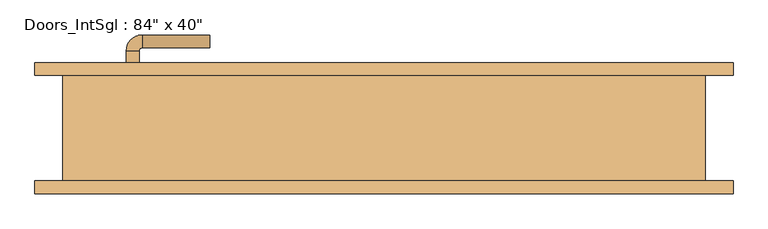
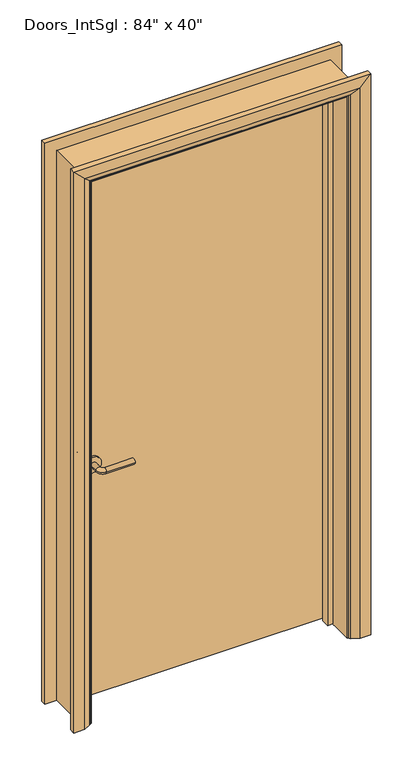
"""IFC4 building model written with IfcOpenShell, lengths in millimetres: door geometry."""

from ifc_helpers import new_model, si_unit, point, frame, frame_2d, origin, place, context, project, spatial, polyline, circle_curve, ellipse_curve, trimmed, segment, composite_curve, outline, extrude, faceted_brep, source, transform, mapped, element, save
from ifc_brep_helpers import plane_surface, cylinder_surface, revolved_surface, advanced_brep


def door_63cfe3d1(model_context):
    return source(origin(), model_context, "Body", "SolidModel", [
        advanced_brep(
        [(-401.0, 36.0, 900.0), (-381.0, 36.0, 900.0), (-381.0, 6.0, 900.0), (-401.0, 6.0, 900.0), (-376.0, 1.0, 900.0), (-376.0, -19.0, 900.0), (-271.0, -19.0, 900.0), (-271.0, 1.0, 900.0)],
        [
            (0, 1, circle_curve(frame((-391.0, 36.0, 900.0), z_axis=(0.0, 1.0, 0.0), x_axis=(1.0, 0.0, 0.0)), 10.0)),
            (1, 0, circle_curve(frame((-391.0, 36.0, 900.0), z_axis=(0.0, 1.0, 0.0), x_axis=(1.0, 0.0, 0.0)), 10.0)),
            (1, 2),
            (2, 3, circle_curve(frame((-391.0, 6.0, 900.0), z_axis=(0.0, 1.0, 0.0), x_axis=(1.0, 0.0, 0.0)), 10.0)),
            (3, 0),
            (3, 2, circle_curve(frame((-391.0, 6.0, 900.0), z_axis=(0.0, 1.0, 0.0), x_axis=(1.0, 0.0, 0.0)), 10.0)),
            (4, 5, circle_curve(frame((-376.0, -9.0, 900.0), z_axis=(-1.0, 0.0, 0.0), x_axis=(0.0, 1.0, 0.0)), 10.0)),
            (5, 3, circle_curve(frame((-376.0, 6.0, 900.0), z_axis=(0.0, 0.0, -1.0), x_axis=(-1.0, 0.0, 0.0)), 25.0)),
            (2, 4, circle_curve(frame((-376.0, 6.0, 900.0), z_axis=(0.0, 0.0, 1.0), x_axis=(-1.0, 0.0, 0.0)), 5.0)),
            (5, 4, circle_curve(frame((-376.0, -9.0, 900.0), z_axis=(-1.0, 0.0, 0.0), x_axis=(0.0, 1.0, 0.0)), 10.0)),
            (6, 7, circle_curve(frame((-271.0, -9.0, 900.0), z_axis=(1.0, 0.0, 0.0), x_axis=(0.0, 1.0, 0.0)), 10.0)),
            (7, 6, circle_curve(frame((-271.0, -9.0, 900.0), z_axis=(1.0, 0.0, 0.0), x_axis=(0.0, 1.0, 0.0)), 10.0)),
            (4, 7),
            (6, 5),
        ],
        [
            plane_surface(frame((-391.0, 36.0, 900.0), z_axis=(0.0, 1.0, 0.0), x_axis=(0.0, 0.0, 1.0))),
            cylinder_surface(frame((-391.0, 36.0, 900.0), z_axis=(0.0, 1.0, 0.0), x_axis=(1.0, 0.0, 0.0)), 10.0),
            revolved_surface(trimmed(ellipse_curve(frame((-391.0, 6.0, 900.0), z_axis=(0.0, -1.0, 0.0), x_axis=(1.0, 0.0, 0.0)), 10.0, 10.0), [point((-401.0, 6.0, 900.0))], [point((-381.0, 6.0, 900.0))], True, "CARTESIAN"), (-376.0, 6.0, 900.0), (0.0, 0.0, -1.0)),
            revolved_surface(trimmed(ellipse_curve(frame((-391.0, 6.0, 900.0), z_axis=(0.0, -1.0, 0.0), x_axis=(1.0, 0.0, 0.0)), 10.0, 10.0), [point((-381.0, 6.0, 900.0))], [point((-401.0, 6.0, 900.0))], True, "CARTESIAN"), (-376.0, 6.0, 900.0), (0.0, 0.0, -1.0)),
            plane_surface(frame((-271.0, -9.0, 900.0), z_axis=(1.0, 0.0, 0.0), x_axis=(0.0, 0.0, 1.0))),
            cylinder_surface(frame((-376.0, -9.0, 900.0), z_axis=(-1.0, 0.0, 0.0), x_axis=(0.0, 1.0, 0.0)), 10.0),
        ],
        [
            (0, [[1, 2]]),
            (1, [[3, 4, 5, -2]]),
            (1, [[-5, 6, -3, -1]]),
            (2, [[7, 8, -4, 9]]),
            (3, [[10, -9, -6, -8]]),
            (4, [[11, 12]]),
            (5, [[13, -11, 14, -7]]),
            (5, [[-14, -12, -13, -10]]),
        ],
    ),
        extrude(outline(composite_curve([segment(trimmed(circle_curve(frame_2d((900.0, -393.5)), 30.0), [point((900.0, -423.5))], [point((900.0, -363.5))], False, "CARTESIAN"), True, "CONTINUOUS"), segment(trimmed(circle_curve(frame_2d((900.0, -393.5)), 30.0), [point((900.0, -363.5))], [point((900.0, -423.5))], False, "CARTESIAN"), True, "CONTINUOUS")], self_intersect=False)), frame((0.0, 36.0, 0.0), z_axis=(0.0, 1.0, 0.0), x_axis=(0.0, 0.0, 1.0)), (0.0, 0.0, 1.0), 8.0),
        advanced_brep(
        [(-401.0, 90.0, 900.0), (-381.0, 90.0, 900.0), (-401.0, 120.0, 900.0), (-381.0, 120.0, 900.0), (-376.0, 125.0, 900.0), (-376.0, 145.0, 900.0), (-271.0, 145.0, 900.0), (-271.0, 125.0, 900.0)],
        [
            (0, 1, circle_curve(frame((-391.0, 90.0, 900.0), z_axis=(0.0, -1.0, 0.0), x_axis=(1.0, 0.0, 0.0)), 10.0)),
            (1, 0, circle_curve(frame((-391.0, 90.0, 900.0), z_axis=(0.0, -1.0, 0.0), x_axis=(1.0, 0.0, 0.0)), 10.0)),
            (0, 2),
            (2, 3, circle_curve(frame((-391.0, 120.0, 900.0), z_axis=(0.0, -1.0, 0.0), x_axis=(1.0, 0.0, 0.0)), 10.0)),
            (3, 1),
            (3, 2, circle_curve(frame((-391.0, 120.0, 900.0), z_axis=(0.0, -1.0, 0.0), x_axis=(1.0, 0.0, 0.0)), 10.0)),
            (4, 3, circle_curve(frame((-376.0, 120.0, 900.0), z_axis=(0.0, 0.0, 1.0), x_axis=(-1.0, 0.0, 0.0)), 5.0)),
            (2, 5, circle_curve(frame((-376.0, 120.0, 900.0), z_axis=(0.0, 0.0, -1.0), x_axis=(-1.0, 0.0, 0.0)), 25.0)),
            (5, 4, circle_curve(frame((-376.0, 135.0, 900.0), z_axis=(-1.0, 0.0, 0.0), x_axis=(0.0, -1.0, 0.0)), 10.0)),
            (4, 5, circle_curve(frame((-376.0, 135.0, 900.0), z_axis=(-1.0, 0.0, 0.0), x_axis=(0.0, -1.0, 0.0)), 10.0)),
            (6, 7, circle_curve(frame((-271.0, 135.0, 900.0), z_axis=(1.0, 0.0, 0.0), x_axis=(0.0, -1.0, 0.0)), 10.0)),
            (7, 6, circle_curve(frame((-271.0, 135.0, 900.0), z_axis=(1.0, 0.0, 0.0), x_axis=(0.0, -1.0, 0.0)), 10.0)),
            (5, 6),
            (7, 4),
        ],
        [
            plane_surface(frame((-391.0, 90.0, 900.0), z_axis=(0.0, -1.0, 0.0), x_axis=(0.0, 0.0, 1.0))),
            cylinder_surface(frame((-391.0, 90.0, 900.0), z_axis=(0.0, -1.0, 0.0), x_axis=(1.0, 0.0, 0.0)), 10.0),
            revolved_surface(trimmed(ellipse_curve(frame((-391.0, 120.0, 900.0), z_axis=(0.0, -1.0, 0.0), x_axis=(1.0, 0.0, 0.0)), 10.0, 10.0), [point((-401.0, 120.0, 900.0))], [point((-381.0, 120.0, 900.0))], True, "CARTESIAN"), (-376.0, 120.0, 900.0), (0.0, 0.0, -1.0)),
            revolved_surface(trimmed(ellipse_curve(frame((-391.0, 120.0, 900.0), z_axis=(0.0, -1.0, 0.0), x_axis=(1.0, 0.0, 0.0)), 10.0, 10.0), [point((-381.0, 120.0, 900.0))], [point((-401.0, 120.0, 900.0))], True, "CARTESIAN"), (-376.0, 120.0, 900.0), (0.0, 0.0, -1.0)),
            plane_surface(frame((-271.0, 135.0, 900.0), z_axis=(1.0, 0.0, 0.0), x_axis=(0.0, 0.0, 1.0))),
            cylinder_surface(frame((-376.0, 135.0, 900.0), z_axis=(-1.0, 0.0, 0.0), x_axis=(0.0, -1.0, 0.0)), 10.0),
        ],
        [
            (0, [[1, 2]]),
            (1, [[-1, 3, 4, 5]]),
            (1, [[-2, -5, 6, -3]]),
            (2, [[7, -4, 8, 9]]),
            (3, [[-8, -6, -7, 10]]),
            (4, [[11, 12]]),
            (5, [[-9, 13, -12, 14]]),
            (5, [[-10, -14, -11, -13]]),
        ],
    ),
        extrude(outline(composite_curve([segment(trimmed(circle_curve(frame_2d((900.0, -393.5)), 30.0), [point((900.0, -423.5))], [point((900.0, -363.5))], False, "CARTESIAN"), True, "CONTINUOUS"), segment(trimmed(circle_curve(frame_2d((900.0, -393.5)), 30.0), [point((900.0, -363.5))], [point((900.0, -423.5))], False, "CARTESIAN"), True, "CONTINUOUS")], self_intersect=False)), frame((0.0, 82.0, 0.0), z_axis=(0.0, 1.0, 0.0), x_axis=(0.0, 0.0, 1.0)), (0.0, 0.0, 1.0), 8.0),
        extrude(outline(polyline([(466.0, 44.0), (-466.0, 44.0), (-466.0, 82.0), (466.0, 82.0), (466.0, 44.0)])), frame((0.0, 0.0, 8.0), z_axis=(0.0, 0.0, 1.0), x_axis=(1.0, 0.0, 0.0)), (0.0, 0.0, 1.0), 2083.6),
        advanced_brep(
        [(543.0, 102.0, 0.0), (543.0, 82.0, 0.0), (473.0, 82.0, 0.0), (477.0, 88.0, 0.0), (503.0, 102.0, 0.0), (543.0, 102.0, 2168.6), (543.0, 82.0, 2168.6), (-543.0, 82.0, 2168.6), (-543.0, 82.0, 0.0), (-473.0, 82.0, 0.0), (-473.0, 82.0, 2098.6), (473.0, 82.0, 2098.6), (477.0, 88.0, 2102.6), (503.0, 102.0, 2128.6), (-503.0, 102.0, 2128.6), (-503.0, 102.0, 0.0), (-543.0, 102.0, 0.0), (-543.0, 102.0, 2168.6), (-477.0, 88.0, 0.0), (-477.0, 88.0, 2102.6)],
        [
            (0, 1),
            (1, 2),
            (2, 3, circle_curve(frame((481.0, 81.0, 0.0), z_axis=(0.0, 0.0, -1.0), x_axis=(1.0, 0.0, 0.0)), 8.0622577)),
            (3, 4),
            (4, 0),
            (0, 5),
            (5, 6),
            (6, 1),
            (6, 7),
            (7, 8),
            (8, 9),
            (9, 10),
            (10, 11),
            (11, 2),
            (11, 12, ellipse_curve(frame((481.0, 81.0, 2106.6), z_axis=(0.7071067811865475, 0.0, -0.7071067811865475), x_axis=(-0.7071067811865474, 0.0, -0.7071067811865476)), 11.4017543, 8.0622577)),
            (12, 3),
            (12, 13),
            (13, 4),
            (13, 14),
            (14, 15),
            (15, 16),
            (16, 17),
            (17, 5),
            (7, 17),
            (16, 8),
            (15, 18),
            (18, 9, circle_curve(frame((-481.0, 81.0, 0.0), z_axis=(0.0, 0.0, -1.0), x_axis=(-1.0, 0.0, 0.0)), 8.0622577)),
            (19, 10, ellipse_curve(frame((-481.0, 81.0, 2106.6), z_axis=(-0.7071067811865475, 0.0, -0.7071067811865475), x_axis=(-0.7071067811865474, 0.0, 0.7071067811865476)), 11.4017543, 8.0622577)),
            (18, 19),
            (14, 19),
            (19, 12),
        ],
        [
            plane_surface(frame((473.0, 82.0, 0.0), z_axis=(0.0, 0.0, -1.0), x_axis=(0.0, -1.0, 0.0))),
            plane_surface(frame((543.0, 102.0, 0.0), z_axis=(1.0, 0.0, 0.0), x_axis=(0.0, 0.0, 1.0))),
            plane_surface(frame((543.0, 82.0, 0.0), z_axis=(0.0, -1.0, 0.0), x_axis=(0.0, 0.0, 1.0))),
            cylinder_surface(frame((481.0, 81.0, 0.0), z_axis=(0.0, 0.0, -1.0), x_axis=(1.0, 0.0, 0.0)), 8.0622577),
            plane_surface(frame((477.0, 88.0, 0.0), z_axis=(-0.4740998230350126, 0.880471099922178, 0.0), x_axis=(0.0, 0.0, 1.0))),
            plane_surface(frame((503.0, 102.0, 0.0), z_axis=(0.0, 1.0, 0.0), x_axis=(0.0, 0.0, 1.0))),
            plane_surface(frame((-543.0, 102.0, 2168.6), z_axis=(-1.0, 0.0, 0.0), x_axis=(0.0, 0.0, -1.0))),
            plane_surface(frame((-473.0, 82.0, 0.0), z_axis=(0.0, 0.0, -1.0), x_axis=(0.0, -1.0, 0.0))),
            cylinder_surface(frame((-481.0, 81.0, 2098.6), z_axis=(0.0, 0.0, 1.0), x_axis=(-1.0, 0.0, 0.0)), 8.0622577),
            plane_surface(frame((-477.0, 88.0, 2102.6), z_axis=(0.47409982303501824, 0.8804710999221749, 0.0), x_axis=(0.0, 0.0, -1.0))),
            plane_surface(frame((543.0, 102.0, 2168.6), z_axis=(0.0, 0.0, 1.0), x_axis=(-1.0, 0.0, 0.0))),
            cylinder_surface(frame((473.0, 81.0, 2106.6), z_axis=(1.0, 0.0, 0.0), x_axis=(0.0, 0.0, 1.0)), 8.0622577),
            plane_surface(frame((477.0, 88.0, 2102.6), z_axis=(0.0, 0.8804710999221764, -0.4740998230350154), x_axis=(-1.0, 0.0, 0.0))),
        ],
        [
            (0, [[1, 2, 3, 4, 5]]),
            (1, [[-1, 6, 7, 8]]),
            (2, [[-2, -8, 9, 10, 11, 12, 13, 14]]),
            (3, [[-3, -14, 15, 16]]),
            (4, [[-4, -16, 17, 18]]),
            (5, [[-5, -18, 19, 20, 21, 22, 23, -6]]),
            (6, [[24, -22, 25, -10]]),
            (7, [[-21, 26, 27, -11, -25]]),
            (8, [[28, -12, -27, 29]]),
            (9, [[30, -29, -26, -20]]),
            (10, [[-7, -23, -24, -9]]),
            (11, [[-15, -13, -28, 31]]),
            (12, [[-17, -31, -30, -19]]),
        ],
    ),
        extrude(outline(polyline([(0.0, -468.0), (0.0, -449.0), (2074.6, -449.0), (2074.6, 449.0), (0.0, 449.0), (0.0, 468.0), (2093.6, 468.0), (2093.6, -468.0), (0.0, -468.0)])), frame((0.0, 10.0, 0.0), z_axis=(0.0, 1.0, 0.0), x_axis=(0.0, 0.0, 1.0)), (0.0, 0.0, 1.0), 32.0),
        advanced_brep(
        [(-543.0, -102.0, 0.0), (-543.0, -82.0, 0.0), (-473.0, -82.0, 0.0), (-477.0, -88.0, 0.0), (-503.0, -102.0, 0.0), (-543.0, -102.0, 2168.6), (-543.0, -82.0, 2168.6), (-473.0, -82.0, 2098.6), (-477.0, -88.0, 2102.6), (-503.0, -102.0, 2128.6), (543.0, -102.0, 0.0), (503.0, -102.0, 0.0), (477.0, -88.0, 0.0), (473.0, -82.0, 0.0), (543.0, -82.0, 0.0), (543.0, -102.0, 2168.6), (503.0, -102.0, 2128.6), (477.0, -88.0, 2102.6), (473.0, -82.0, 2098.6), (543.0, -82.0, 2168.6)],
        [
            (0, 1),
            (1, 2),
            (2, 3, circle_curve(frame((-481.0, -81.0, 0.0), z_axis=(0.0, 0.0, -1.0), x_axis=(-1.0, 0.0, 0.0)), 8.0622577)),
            (3, 4),
            (4, 0),
            (0, 5),
            (5, 6),
            (6, 1),
            (6, 7),
            (7, 2),
            (7, 8, ellipse_curve(frame((-481.0, -81.0, 2106.6), z_axis=(-0.7071067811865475, 0.0, -0.7071067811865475), x_axis=(0.7071067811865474, 0.0, -0.7071067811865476)), 11.4017543, 8.0622577)),
            (8, 3),
            (8, 9),
            (9, 4),
            (9, 5),
            (10, 11),
            (11, 12),
            (12, 13, circle_curve(frame((481.0, -81.0, 0.0), z_axis=(0.0, 0.0, -1.0), x_axis=(1.0, 0.0, 0.0)), 8.0622577)),
            (13, 14),
            (14, 10),
            (15, 16),
            (16, 11),
            (10, 15),
            (16, 17),
            (17, 12),
            (17, 18, ellipse_curve(frame((481.0, -81.0, 2106.6), z_axis=(0.7071067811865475, 0.0, -0.7071067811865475), x_axis=(0.7071067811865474, 0.0, 0.7071067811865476)), 11.4017543, 8.0622577)),
            (18, 13),
            (18, 19),
            (19, 14),
            (19, 15),
            (5, 15),
            (19, 6),
            (18, 7),
            (17, 8),
            (16, 9),
        ],
        [
            plane_surface(frame((-473.0, -154.8010989, 0.0), z_axis=(0.0, 0.0, -1.0), x_axis=(1.0, 0.0, 0.0))),
            plane_surface(frame((-543.0, -102.0, 0.0), z_axis=(-1.0, 0.0, 0.0), x_axis=(0.0, 0.0, 1.0))),
            plane_surface(frame((-543.0, -82.0, 0.0), z_axis=(0.0, 1.0, 0.0), x_axis=(0.0, 0.0, 1.0))),
            cylinder_surface(frame((-481.0, -81.0, 0.0), z_axis=(0.0, 0.0, -1.0), x_axis=(-1.0, 0.0, 0.0)), 8.0622577),
            plane_surface(frame((-477.0, -88.0, 0.0), z_axis=(0.4740998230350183, -0.8804710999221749, 0.0), x_axis=(0.0, 0.0, 1.0))),
            plane_surface(frame((-503.0, -102.0, 0.0), z_axis=(0.0, -1.0, 0.0), x_axis=(0.0, 0.0, 1.0))),
            plane_surface(frame((473.0, -154.8010989, 0.0), z_axis=(0.0, 0.0, -1.0), x_axis=(-1.0, 0.0, 0.0))),
            plane_surface(frame((503.0, -102.0, 2128.6), z_axis=(0.0, -1.0, 0.0), x_axis=(0.0, 0.0, -1.0))),
            plane_surface(frame((477.0, -88.0, 2102.6), z_axis=(-0.4740998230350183, -0.8804710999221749, 0.0), x_axis=(0.0, 0.0, -1.0))),
            cylinder_surface(frame((481.0, -81.0, 2098.6), z_axis=(0.0, 0.0, 1.0), x_axis=(1.0, 0.0, 0.0)), 8.0622577),
            plane_surface(frame((543.0, -82.0, 2168.6), z_axis=(0.0, 1.0, 0.0), x_axis=(0.0, 0.0, -1.0))),
            plane_surface(frame((543.0, -102.0, 2168.6), z_axis=(1.0, 0.0, 0.0), x_axis=(0.0, 0.0, -1.0))),
            plane_surface(frame((-543.0, -102.0, 2168.6), z_axis=(0.0, 0.0, 1.0), x_axis=(1.0, 0.0, 0.0))),
            plane_surface(frame((-543.0, -82.0, 2168.6), z_axis=(0.0, 1.0, 0.0), x_axis=(1.0, 0.0, 0.0))),
            cylinder_surface(frame((-473.0, -81.0, 2106.6), z_axis=(-1.0, 0.0, 0.0), x_axis=(0.0, 0.0, 1.0)), 8.0622577),
            plane_surface(frame((-477.0, -88.0, 2102.6), z_axis=(0.0, -0.8804710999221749, -0.4740998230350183), x_axis=(1.0, 0.0, 0.0))),
            plane_surface(frame((-503.0, -102.0, 2128.6), z_axis=(0.0, -1.0, 0.0), x_axis=(1.0, 0.0, 0.0))),
        ],
        [
            (0, [[1, 2, 3, 4, 5]]),
            (1, [[-1, 6, 7, 8]]),
            (2, [[-2, -8, 9, 10]]),
            (3, [[-3, -10, 11, 12]]),
            (4, [[-4, -12, 13, 14]]),
            (5, [[-5, -14, 15, -6]]),
            (6, [[16, 17, 18, 19, 20]]),
            (7, [[21, 22, -16, 23]]),
            (8, [[24, 25, -17, -22]]),
            (9, [[26, 27, -18, -25]]),
            (10, [[28, 29, -19, -27]]),
            (11, [[30, -23, -20, -29]]),
            (12, [[-7, 31, -30, 32]]),
            (13, [[-9, -32, -28, 33]]),
            (14, [[-11, -33, -26, 34]]),
            (15, [[-13, -34, -24, 35]]),
            (16, [[-15, -35, -21, -31]]),
        ],
    ),
        faceted_brep([(-468.0, 82.0, 0.0), (-468.0, -82.0, 0.0), (-500.0, -82.0, 0.0), (-500.0, 82.0, 0.0), (-468.0, 82.0, 2093.6), (-468.0, -82.0, 2093.6), (-500.0, -82.0, 2125.6), (-500.0, 82.0, 2125.6), (468.0, 82.0, 0.0), (500.0, 82.0, 0.0), (500.0, -82.0, 0.0), (468.0, -82.0, 0.0), (468.0, 82.0, 2093.6), (500.0, 82.0, 2125.6), (500.0, -82.0, 2125.6), (468.0, -82.0, 2093.6)], [[[0, 1, 2, 3]], [[1, 0, 4, 5]], [[2, 1, 5, 6]], [[3, 2, 6, 7]], [[0, 3, 7, 4]], [[8, 9, 10, 11]], [[12, 13, 9, 8]], [[13, 14, 10, 9]], [[14, 15, 11, 10]], [[15, 12, 8, 11]], [[5, 4, 12, 15]], [[6, 5, 15, 14]], [[7, 6, 14, 13]], [[4, 7, 13, 12]]]),
    ])


if __name__ == "__main__":
    model = new_model("IFC4")
    model_context = context("Model", 3, world=origin())
    ifc_project = project(units=[si_unit("LENGTHUNIT", "METRE", prefix="MILLI")], contexts=[model_context])
    site = spatial("IfcSite", under=ifc_project)
    building = spatial("IfcBuilding", under=site)
    placement = place(None, origin())
    door_shape = door_63cfe3d1(model_context)
    element("IfcDoor", 1, ObjectType="Doors_IntSgl : 84\" x 40\"", at=placement, inside=building, context=model_context, shape_type="MappedRepresentation", body=[
        mapped(door_shape, transform((0.0, 0.0, 0.0), x_axis=(1.0, 0.0, 0.0), y_axis=(0.0, 1.0, 0.0), z_axis=(0.0, 0.0, 1.0))),
    ])
    save(model, "model.ifc")
